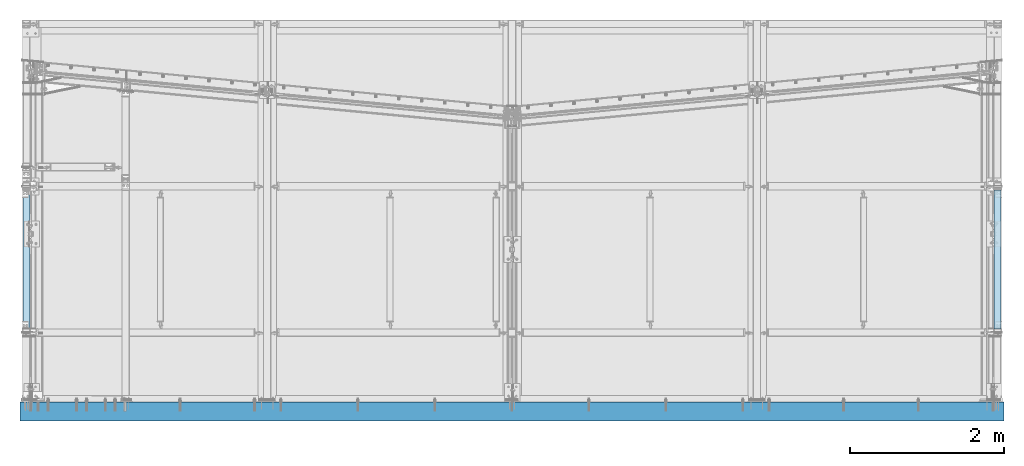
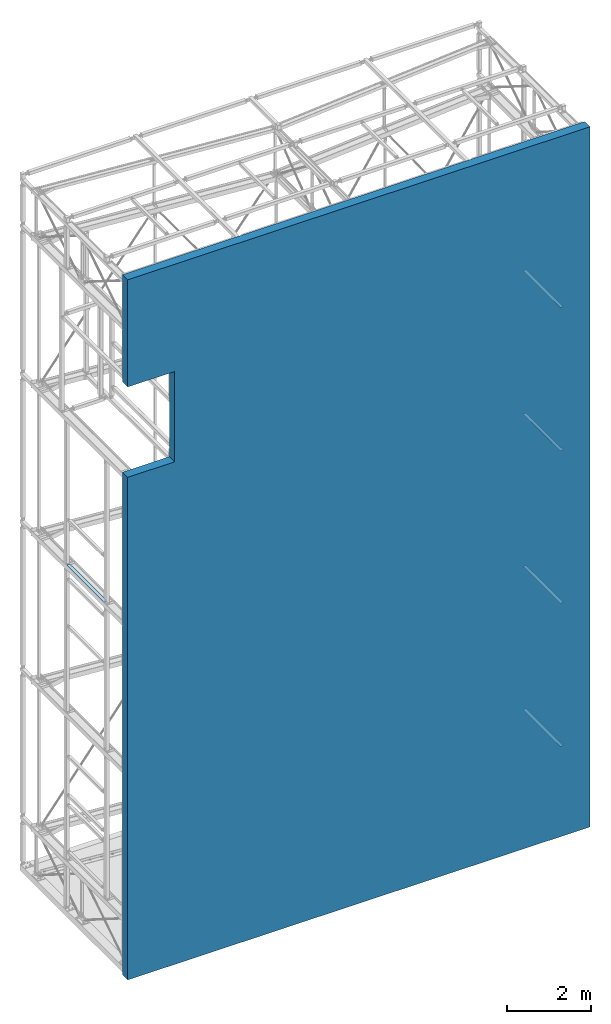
# One storey, part 95 of 271: 5 plates, 1 slab, 6 elements without a shape of their own.
"""IFC2X3 building model written with IfcOpenShell, lengths in millimetres."""

from ifc_helpers import new_model, si_unit, frame, origin_with_axes, origin_2d_with_axis, place, context, subcontext, project, spatial, polyline, i_section, outline, extrude, boolean, halfspace, material, type_object, element, aggregate, save


model = new_model("IFC2X3")

# Units and contexts
model_context = context("Model", 3, precision=1e-05, world=origin_with_axes())
body_context = subcontext(model_context, "Body", "Model", "MODEL_VIEW")
ifc_project = project(units=[si_unit("LENGTHUNIT", "METRE", prefix="MILLI"), si_unit("AREAUNIT", "SQUARE_METRE"), si_unit("VOLUMEUNIT", "CUBIC_METRE"), si_unit("MASSUNIT", "GRAM", prefix="KILO"), si_unit("TIMEUNIT", "SECOND"), si_unit("PLANEANGLEUNIT", "RADIAN"), si_unit("SOLIDANGLEUNIT", "STERADIAN"), si_unit("THERMODYNAMICTEMPERATUREUNIT", "DEGREE_CELSIUS"), si_unit("LUMINOUSINTENSITYUNIT", "LUMEN")], contexts=[model_context])

# Site, building, storey
site_placement = place(None, origin_with_axes())
site = spatial("IfcSite", under=ifc_project, at=site_placement, Name="Undefined", CompositionType="ELEMENT")
building_placement = place(site_placement, origin_with_axes())
building = spatial("IfcBuilding", under=site, at=building_placement, Name="Undefined", CompositionType="ELEMENT")
storey_placement = place(building_placement, origin_with_axes())
storey = spatial("IfcBuildingStorey", under=building, at=storey_placement, Name="Undefined", CompositionType="ELEMENT", Elevation=0.0)

# Assembly, plate
assembly_1_placement = place(storey_placement, origin_with_axes())
assembly_1 = element("IfcElementAssembly", 1, at=assembly_1_placement, inside=storey, AssemblyPlace="NOTDEFINED", PredefinedType="RIGID_FRAME")
ifc_material_1 = material(Name="STEEL/S355JR")
plate_type = type_object("IfcPlateType", Name="BL4*90", PredefinedType="NOTDEFINED")
plate_1_placement = place(assembly_1_placement, frame((-11.6243129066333, 2749.05225536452, 10069.8499999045), z_axis=(0.0, 0.0, -1.0), x_axis=(1.0, 0.0, 0.0)))
solid_1 = boolean("DIFFERENCE", boolean("DIFFERENCE", extrude(i_section(OverallWidth=135.0, OverallDepth=270.0, WebThickness=6.599999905, FlangeThickness=10.19999981, FilletRadius=15.0, at=origin_2d_with_axis()), frame((134.999999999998, -1700.27272889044, 65.5000000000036), z_axis=(0.0, 1.0, 0.0), x_axis=(0.0, 0.0, -1.0)), (0.0, 0.0, 1.0), 4450.0), halfspace(frame((-1.81898940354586e-12, -1657.99986439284, 65.5000000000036), z_axis=(0.0, 1.0, 0.0), x_axis=(0.0, 0.0, -1.0)), True)), halfspace(frame((269.999999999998, 2713.72727110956, 65.5000000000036), z_axis=(0.0, -1.0, 0.0), x_axis=(0.0, 0.0, -1.0)), True))
plate_1 = element("IfcPlate", 2, at=plate_1_placement, type_object=plate_type, material=ifc_material_1, Name="BLACHA", ObjectType="BL4*90", context=body_context, shape_type="CSG", body=[
    boolean("DIFFERENCE", extrude(outline(polyline([(0.0, 0.0), (100.0, 0.0), (100.0, 1800.0), (-7.27595761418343e-12, 1800.0), (0.0, 0.0)])), frame((0.0, 0.0, -2.0), z_axis=(0.0, 0.0, 1.0), x_axis=(1.0, 0.0, 0.0)), (0.0, 0.0, 1.0), 4.0), solid_1),
])
aggregate(assembly_1, [plate_1])

assembly_2_placement = place(storey_placement, origin_with_axes())
assembly_2 = element("IfcElementAssembly", 3, at=assembly_2_placement, inside=storey, AssemblyPlace="NOTDEFINED", PredefinedType="RIGID_FRAME")
plate_2_placement = place(assembly_2_placement, frame((12708.3756870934, 2749.05225536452, 1429.84999990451), z_axis=(0.0, 0.0, 1.0), x_axis=(-1.0, 0.0, 1.38777878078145e-17)))
solid_2 = boolean("DIFFERENCE", boolean("DIFFERENCE", extrude(i_section(OverallWidth=135.0, OverallDepth=270.0, WebThickness=6.599999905, FlangeThickness=10.19999981, FilletRadius=15.0, at=origin_2d_with_axis()), frame((134.999999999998, -1700.27272889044, -65.5000000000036), z_axis=(0.0, 1.0, 0.0), x_axis=(0.0, 0.0, -1.0)), (0.0, 0.0, 1.0), 4450.0), halfspace(frame((-1.81898940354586e-12, -1657.99986439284, -65.5000000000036), z_axis=(0.0, 1.0, 0.0), x_axis=(1.0, 0.0, 0.0)), True)), halfspace(frame((269.999999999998, 2713.72727110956, -65.5000000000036), z_axis=(0.0, -1.0, 0.0), x_axis=(-1.0, 0.0, 1.38777878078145e-17)), True))
plate_2 = element("IfcPlate", 4, at=plate_2_placement, type_object=plate_type, material=ifc_material_1, Name="BLACHA", ObjectType="BL4*90", context=body_context, shape_type="CSG", body=[
    boolean("DIFFERENCE", extrude(outline(polyline([(0.0, 0.0), (100.0, 0.0), (100.0, 1800.0), (-7.27595761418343e-12, 1800.0), (0.0, 0.0)])), frame((0.0, 0.0, -2.0), z_axis=(0.0, 0.0, 1.0), x_axis=(1.0, 0.0, 0.0)), (0.0, 0.0, 1.0), 4.0), solid_2),
])
aggregate(assembly_2, [plate_2])

assembly_3_placement = place(storey_placement, origin_with_axes())
assembly_3 = element("IfcElementAssembly", 5, at=assembly_3_placement, inside=storey, AssemblyPlace="NOTDEFINED", PredefinedType="RIGID_FRAME")
plate_3_placement = place(assembly_3_placement, frame((12708.3756870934, 2749.05225536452, 5618.8499999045), z_axis=(0.0, 0.0, 1.0), x_axis=(-1.0, 0.0, 1.38777878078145e-17)))
solid_3 = boolean("DIFFERENCE", boolean("DIFFERENCE", extrude(i_section(OverallWidth=135.0, OverallDepth=270.0, WebThickness=6.599999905, FlangeThickness=10.19999981, FilletRadius=15.0, at=origin_2d_with_axis()), frame((134.999999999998, -1700.27272889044, 65.5000000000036), z_axis=(0.0, 1.0, 0.0), x_axis=(0.0, 0.0, -1.0)), (0.0, 0.0, 1.0), 4450.0), halfspace(frame((-1.81898940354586e-12, -1657.99986439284, 65.5000000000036), z_axis=(0.0, 1.0, 0.0), x_axis=(0.0, 0.0, -1.0)), True)), halfspace(frame((269.999999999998, 2713.72727110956, 65.5000000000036), z_axis=(0.0, -1.0, 0.0), x_axis=(0.0, 0.0, -1.0)), True))
plate_3 = element("IfcPlate", 6, at=plate_3_placement, type_object=plate_type, material=ifc_material_1, Name="BLACHA", ObjectType="BL4*90", context=body_context, shape_type="CSG", body=[
    boolean("DIFFERENCE", extrude(outline(polyline([(0.0, 0.0), (100.0, 0.0), (100.0, 1800.0), (-7.27595761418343e-12, 1800.0), (0.0, 0.0)])), frame((0.0, 0.0, -2.0), z_axis=(0.0, 0.0, 1.0), x_axis=(1.0, 0.0, 0.0)), (0.0, 0.0, 1.0), 4.0), solid_3),
])
aggregate(assembly_3, [plate_3])

assembly_4_placement = place(storey_placement, origin_with_axes())
assembly_4 = element("IfcElementAssembly", 7, at=assembly_4_placement, inside=storey, AssemblyPlace="NOTDEFINED", PredefinedType="RIGID_FRAME")
plate_4_placement = place(assembly_4_placement, frame((12708.3756870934, 2749.05225536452, 10069.8499999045), z_axis=(0.0, 0.0, 1.0), x_axis=(-1.0, 0.0, 1.38777878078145e-17)))
solid_4 = boolean("DIFFERENCE", boolean("DIFFERENCE", extrude(i_section(OverallWidth=135.0, OverallDepth=270.0, WebThickness=6.599999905, FlangeThickness=10.19999981, FilletRadius=15.0, at=origin_2d_with_axis()), frame((134.999999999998, -1700.27272889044, -65.5000000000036), z_axis=(0.0, 1.0, 0.0), x_axis=(0.0, 0.0, -1.0)), (0.0, 0.0, 1.0), 4450.0), halfspace(frame((-1.81898940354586e-12, -1657.99986439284, -65.5000000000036), z_axis=(0.0, 1.0, 0.0), x_axis=(1.0, 0.0, 0.0)), True)), halfspace(frame((269.999999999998, 2713.72727110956, -65.5000000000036), z_axis=(0.0, -1.0, 0.0), x_axis=(-1.0, 0.0, 1.38777878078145e-17)), True))
plate_4 = element("IfcPlate", 8, at=plate_4_placement, type_object=plate_type, material=ifc_material_1, Name="BLACHA", ObjectType="BL4*90", context=body_context, shape_type="CSG", body=[
    boolean("DIFFERENCE", extrude(outline(polyline([(0.0, 0.0), (100.0, 0.0), (100.0, 1800.0), (-7.27595761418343e-12, 1800.0), (0.0, 0.0)])), frame((0.0, 0.0, -2.0), z_axis=(0.0, 0.0, 1.0), x_axis=(1.0, 0.0, 0.0)), (0.0, 0.0, 1.0), 4.0), solid_4),
])
aggregate(assembly_4, [plate_4])

assembly_5_placement = place(storey_placement, origin_with_axes())
assembly_5 = element("IfcElementAssembly", 9, at=assembly_5_placement, inside=storey, AssemblyPlace="NOTDEFINED", PredefinedType="RIGID_FRAME")
plate_5_placement = place(assembly_5_placement, frame((12708.3756870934, 2749.05225536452, 14258.8499999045), z_axis=(0.0, 0.0, 1.0), x_axis=(-1.0, 0.0, 1.38777878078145e-17)))
solid_5 = boolean("DIFFERENCE", boolean("DIFFERENCE", extrude(i_section(OverallWidth=135.0, OverallDepth=270.0, WebThickness=6.599999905, FlangeThickness=10.19999981, FilletRadius=15.0, at=origin_2d_with_axis()), frame((134.999999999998, -1700.27272889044, 65.5000000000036), z_axis=(0.0, 1.0, 0.0), x_axis=(0.0, 0.0, -1.0)), (0.0, 0.0, 1.0), 4450.0), halfspace(frame((-1.81898940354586e-12, -1657.99986439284, 65.5000000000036), z_axis=(0.0, 1.0, 0.0), x_axis=(0.0, 0.0, -1.0)), True)), halfspace(frame((269.999999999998, 2713.72727110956, 65.5000000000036), z_axis=(0.0, -1.0, 0.0), x_axis=(0.0, 0.0, -1.0)), True))
plate_5 = element("IfcPlate", 10, at=plate_5_placement, type_object=plate_type, material=ifc_material_1, Name="BLACHA", ObjectType="BL4*90", context=body_context, shape_type="CSG", body=[
    boolean("DIFFERENCE", extrude(outline(polyline([(0.0, 0.0), (100.0, 0.0), (100.0, 1800.0), (-7.27595761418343e-12, 1800.0), (0.0, 0.0)])), frame((0.0, 0.0, -2.0), z_axis=(0.0, 0.0, 1.0), x_axis=(1.0, 0.0, 0.0)), (0.0, 0.0, 1.0), 4.0), solid_5),
])
aggregate(assembly_5, [plate_5])

# Assembly, slab
assembly_6_placement = place(storey_placement, origin_with_axes())
assembly_6 = element("IfcElementAssembly", 11, at=assembly_6_placement, inside=storey, AssemblyPlace="NOTDEFINED", PredefinedType="REINFORCEMENT_UNIT")
ifc_material_2 = material(Name="CONCRETE/C25/30")
slab_type = type_object("IfcSlabType", Name="250*12780", PredefinedType="NOTDEFINED")
slab_placement = place(assembly_6_placement, frame((-41.6243129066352, -125.675015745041, 20234.3499999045), z_axis=(0.0, 1.0, 0.0), x_axis=(1.0, 0.0, 0.0)))
slab = element("IfcSlab", 12, at=slab_placement, type_object=slab_type, material=ifc_material_2, Name="PŁYTA", ObjectType="250*12780", PredefinedType="FLOOR", context=body_context, shape_type="CSG", body=[
    boolean("DIFFERENCE", extrude(outline(polyline([(0.0, 0.0), (12780.0, -3.63797880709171e-12), (12780.0, 20460.0), (8.07793566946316e-28, 20460.0), (0.0, 0.0)])), frame((0.0, 0.0, -125.0), z_axis=(0.0, 0.0, 1.0), x_axis=(1.0, 0.0, 0.0)), (0.0, 0.0, 1.0), 250.0), extrude(outline(polyline([(0.0, 0.0), (2640.0, 0.0), (2640.0, 1292.0), (0.0, 1292.0), (0.0, 0.0)])), frame((1.81898940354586e-12, 5772.0, -175.000000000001), z_axis=(0.0, 0.0, 1.0), x_axis=(0.0, -1.0, 0.0)), (0.0, 0.0, 1.0), 300.0)),
])
aggregate(assembly_6, [slab])

save(model, "model.ifc")
